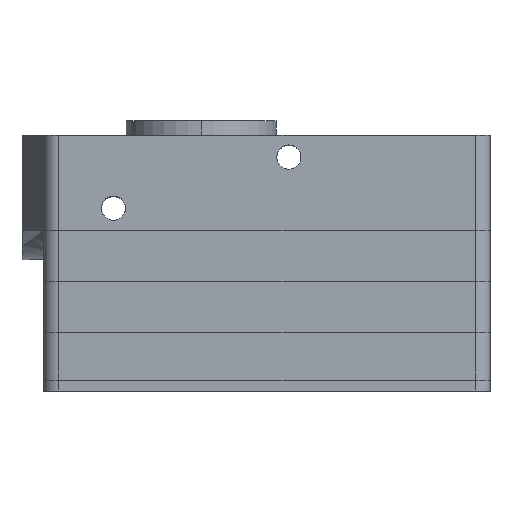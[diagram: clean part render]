
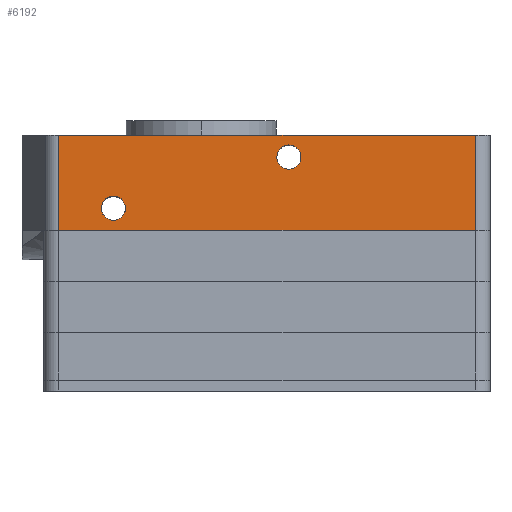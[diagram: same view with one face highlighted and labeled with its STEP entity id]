
A CAD part, top view. The second image highlights one B-rep face of the part: STEP entity #6192.
In plain terms, the highlighted planar face has unit normal (0, 0, 1).
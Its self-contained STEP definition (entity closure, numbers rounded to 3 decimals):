
#266 = AXIS2_PLACEMENT_3D ( 'NONE', #3764, #18767, #9866 ) ;
#634 = CARTESIAN_POINT ( 'NONE',  ( -22.65, 25., 15.5 ) ) ;
#705 = DIRECTION ( 'NONE',  ( -1., 0., 0. ) ) ;
#800 = ORIENTED_EDGE ( 'NONE', *, *, #9555, .F. ) ;
#906 = DIRECTION ( 'NONE',  ( 1., 0., 0. ) ) ;
#1199 = LINE ( 'NONE', #17783, #17786 ) ;
#1232 = EDGE_CURVE ( 'NONE', #11550, #11267, #1951, .T. ) ;
#1654 = AXIS2_PLACEMENT_3D ( 'NONE', #16111, #13093, #19207 ) ;
#1951 = CIRCLE ( 'NONE', #1654, 1.65 ) ;
#2100 = FACE_OUTER_BOUND ( 'NONE', #17339, .T. ) ;
#2917 = VERTEX_POINT ( 'NONE', #634 ) ;
#3266 = DIRECTION ( 'NONE',  ( 0., -1., 0. ) ) ;
#3429 = DIRECTION ( 'NONE',  ( 0., -1., 0. ) ) ;
#3526 = LINE ( 'NONE', #15717, #8487 ) ;
#3764 = CARTESIAN_POINT ( 'NONE',  ( -21., 25., 15.5 ) ) ;
#3778 = VERTEX_POINT ( 'NONE', #18169 ) ;
#3867 = EDGE_CURVE ( 'NONE', #6970, #4509, #4563, .T. ) ;
#4124 = CARTESIAN_POINT ( 'NONE',  ( -28.5, 22., 15.5 ) ) ;
#4203 = DIRECTION ( 'NONE',  ( 0., 0., 1. ) ) ;
#4470 = VERTEX_POINT ( 'NONE', #8130 ) ;
#4509 = VERTEX_POINT ( 'NONE', #14223 ) ;
#4563 = LINE ( 'NONE', #18266, #17773 ) ;
#4963 = CARTESIAN_POINT ( 'NONE',  ( 1.35, 32., 15.5 ) ) ;
#5216 = DIRECTION ( 'NONE',  ( 1., 0., 0. ) ) ;
#5249 = EDGE_LOOP ( 'NONE', ( #5676, #18860 ) ) ;
#5470 = ORIENTED_EDGE ( 'NONE', *, *, #3867, .T. ) ;
#5591 = VERTEX_POINT ( 'NONE', #15042 ) ;
#5676 = ORIENTED_EDGE ( 'NONE', *, *, #16532, .F. ) ;
#5798 = CARTESIAN_POINT ( 'NONE',  ( -21., 25., 15.5 ) ) ;
#6192 = ADVANCED_FACE ( 'NONE', ( #17398, #9798, #2100 ), #8195, .F. ) ;
#6316 = AXIS2_PLACEMENT_3D ( 'NONE', #6989, #18803, #705 ) ;
#6970 = VERTEX_POINT ( 'NONE', #17404 ) ;
#6989 = CARTESIAN_POINT ( 'NONE',  ( -28.5, 35., 15.5 ) ) ;
#7560 = AXIS2_PLACEMENT_3D ( 'NONE', #19046, #17352, #9565 ) ;
#8098 = CARTESIAN_POINT ( 'NONE',  ( 4.65, 32., 15.5 ) ) ;
#8130 = CARTESIAN_POINT ( 'NONE',  ( -19.35, 25., 15.5 ) ) ;
#8158 = ORIENTED_EDGE ( 'NONE', *, *, #1232, .F. ) ;
#8195 = PLANE ( 'NONE',  #6316 ) ;
#8487 = VECTOR ( 'NONE', #3429, 1000. ) ;
#9053 = ORIENTED_EDGE ( 'NONE', *, *, #12164, .F. ) ;
#9555 = EDGE_CURVE ( 'NONE', #3778, #5591, #3526, .T. ) ;
#9565 = DIRECTION ( 'NONE',  ( 1., 0., 0. ) ) ;
#9798 = FACE_BOUND ( 'NONE', #5249, .T. ) ;
#9866 = DIRECTION ( 'NONE',  ( 1., 0., 0. ) ) ;
#10014 = DIRECTION ( 'NONE',  ( 1., 0., 0. ) ) ;
#10945 = AXIS2_PLACEMENT_3D ( 'NONE', #5798, #4203, #10014 ) ;
#11243 = EDGE_CURVE ( 'NONE', #2917, #4470, #12690, .T. ) ;
#11267 = VERTEX_POINT ( 'NONE', #4963 ) ;
#11550 = VERTEX_POINT ( 'NONE', #8098 ) ;
#12164 = EDGE_CURVE ( 'NONE', #11267, #11550, #18108, .T. ) ;
#12690 = CIRCLE ( 'NONE', #266, 1.65 ) ;
#12968 = EDGE_CURVE ( 'NONE', #6970, #3778, #1199, .T. ) ;
#13093 = DIRECTION ( 'NONE',  ( 0., 0., 1. ) ) ;
#14149 = EDGE_LOOP ( 'NONE', ( #8158, #9053 ) ) ;
#14223 = CARTESIAN_POINT ( 'NONE',  ( -28.5, 22., 15.5 ) ) ;
#15042 = CARTESIAN_POINT ( 'NONE',  ( 28.5, 22., 15.5 ) ) ;
#15107 = CIRCLE ( 'NONE', #10945, 1.65 ) ;
#15717 = CARTESIAN_POINT ( 'NONE',  ( 28.5, 35., 15.5 ) ) ;
#16111 = CARTESIAN_POINT ( 'NONE',  ( 3., 32., 15.5 ) ) ;
#16303 = ORIENTED_EDGE ( 'NONE', *, *, #18279, .T. ) ;
#16532 = EDGE_CURVE ( 'NONE', #4470, #2917, #15107, .T. ) ;
#16801 = ORIENTED_EDGE ( 'NONE', *, *, #12968, .F. ) ;
#17339 = EDGE_LOOP ( 'NONE', ( #16303, #800, #16801, #5470 ) ) ;
#17352 = DIRECTION ( 'NONE',  ( 0., 0., 1. ) ) ;
#17398 = FACE_BOUND ( 'NONE', #14149, .T. ) ;
#17404 = CARTESIAN_POINT ( 'NONE',  ( -28.5, 35., 15.5 ) ) ;
#17773 = VECTOR ( 'NONE', #3266, 1000. ) ;
#17783 = CARTESIAN_POINT ( 'NONE',  ( -28.5, 35., 15.5 ) ) ;
#17786 = VECTOR ( 'NONE', #906, 1000. ) ;
#17829 = LINE ( 'NONE', #4124, #19728 ) ;
#18108 = CIRCLE ( 'NONE', #7560, 1.65 ) ;
#18169 = CARTESIAN_POINT ( 'NONE',  ( 28.5, 35., 15.5 ) ) ;
#18266 = CARTESIAN_POINT ( 'NONE',  ( -28.5, 35., 15.5 ) ) ;
#18279 = EDGE_CURVE ( 'NONE', #4509, #5591, #17829, .T. ) ;
#18767 = DIRECTION ( 'NONE',  ( 0., 0., 1. ) ) ;
#18803 = DIRECTION ( 'NONE',  ( 0., 0., -1. ) ) ;
#18860 = ORIENTED_EDGE ( 'NONE', *, *, #11243, .F. ) ;
#19046 = CARTESIAN_POINT ( 'NONE',  ( 3., 32., 15.5 ) ) ;
#19207 = DIRECTION ( 'NONE',  ( 1., 0., 0. ) ) ;
#19728 = VECTOR ( 'NONE', #5216, 1000. ) ;
